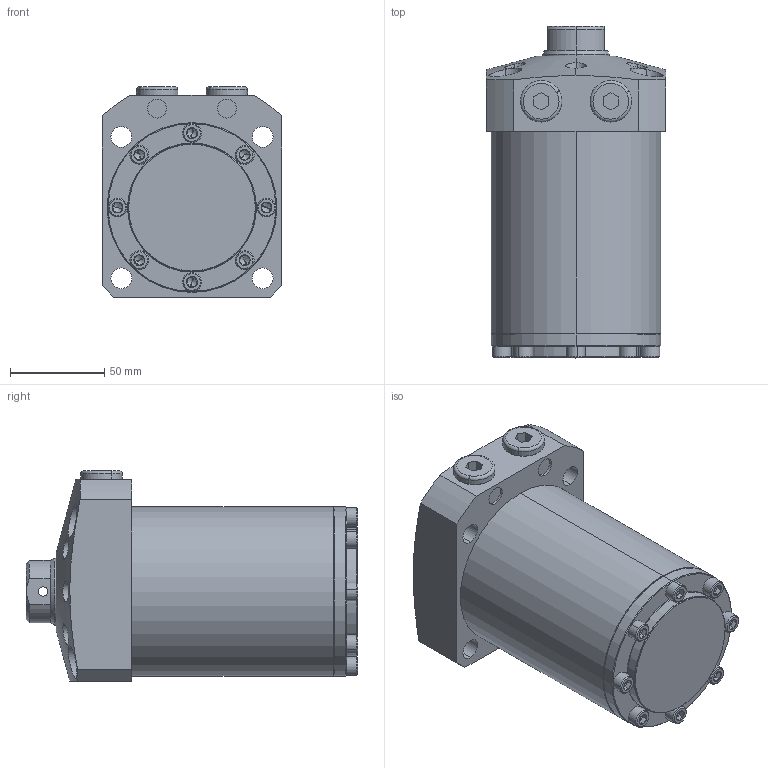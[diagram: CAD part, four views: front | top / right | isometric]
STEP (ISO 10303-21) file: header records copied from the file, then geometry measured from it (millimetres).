
FILE_DESCRIPTION (( 'STEP AP203' ), '1' );
FILE_NAME ('680900-CB-076.step', '2016-11-02T03:28:53', ( 'wxp' ), ( '' ), 'SwSTEP 2.0', 'SolidWorks 2011', '' );
FILE_SCHEMA (( 'CONFIG_CONTROL_DESIGN' ));
Length unit declared in the file: millimetre
Products named in the file (7): 680900-CB-076; 葩璃 68090-CA-76-6^680900-CB-076; 葩璃 68090-CA-76-5^680900-CB-076; 葩璃 68090-CA-76-4^680900-CB-076; 葩璃 68090-CA-76-3^680900-CB-076; 葩璃 68090-CA-76-2^680900-CB-076; 葩璃 68090-CA-76-1^680900-CB-076
Assembly tree (21 placements, depth 2):
  680900-CB-076
    葩璃 68090-CA-76-4^680900-CB-076  x8
    葩璃 68090-CA-76-5^680900-CB-076  x8
    葩璃 68090-CA-76-3^680900-CB-076
    葩璃 68090-CA-76-6^680900-CB-076  x2
    葩璃 68090-CA-76-1^680900-CB-076
    葩璃 68090-CA-76-2^680900-CB-076
Bounding box: 95 x 176 x 111.5 mm (x, y, z)
Volume: 1084626.8 mm3; surface area: 127983.7 mm2
Topology: 21 solids, 21 shells, 687 faces, 1289 edges, 668 vertices
Faces by surface type: plane 298, cone 216, cylinder 157, torus 16
Entity records: 8518 total; most frequent: CARTESIAN_POINT 2334, DIRECTION 1157, ORIENTED_EDGE 950, AXIS2_PLACEMENT_3D 485, EDGE_CURVE 475, VERTEX_POINT 286, EDGE_LOOP 281, CIRCLE 234
